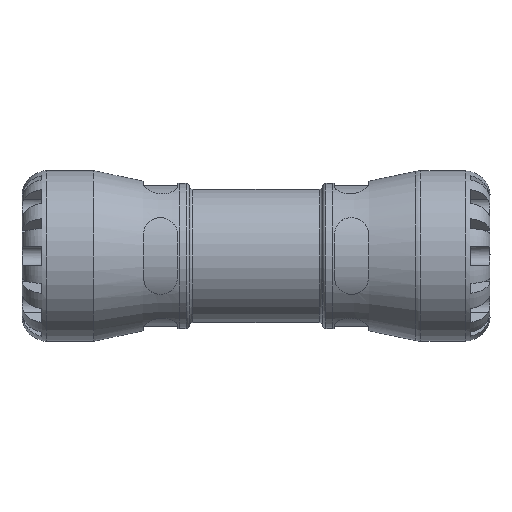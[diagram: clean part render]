
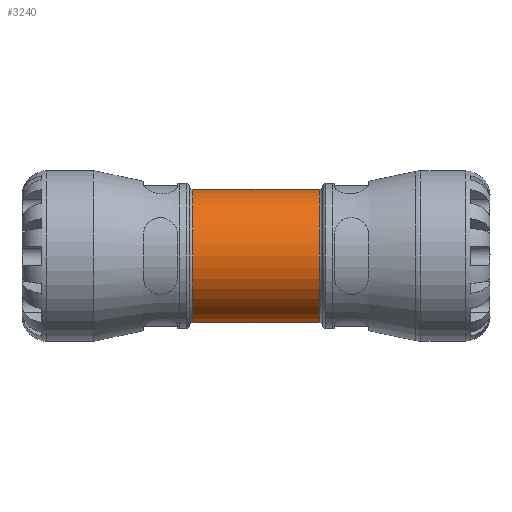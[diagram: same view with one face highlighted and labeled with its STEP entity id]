
A CAD part, front view. The second image highlights one B-rep face of the part: STEP entity #3240.
In plain terms, the highlighted cylindrical face has radius 27.3 mm (diameter 54.6 mm), a full revolution.
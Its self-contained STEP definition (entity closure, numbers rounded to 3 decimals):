
#467=FACE_BOUND('',#784,.T.);
#468=FACE_BOUND('',#785,.T.);
#510=CYLINDRICAL_SURFACE('',#3445,27.3);
#580=FACE_OUTER_BOUND('',#783,.T.);
#783=EDGE_LOOP('',(#2108));
#784=EDGE_LOOP('',(#2109));
#785=EDGE_LOOP('',(#2110));
#1026=B_SPLINE_CURVE_WITH_KNOTS('',3,(#4862,#4863,#4864,#4865,#4866,#4867,
#4868,#4869,#4870,#4871,#4872,#4873,#4874,#4875,#4876,#4877,#4878,#4879,
#4880,#4881,#4882),.UNSPECIFIED.,.T.,.F.,(4,1,1,1,1,1,1,1,1,1,1,1,1,1,1,
1,1,1,4),(-9.367,-9.032,-8.698,-8.028,
-7.359,-6.69,-6.021,-5.352,
-4.906,-4.46,-4.014,-3.568,
-3.122,-2.676,-2.007,-1.338,
-0.669,-0.335,0.),.UNSPECIFIED.);
#1158=CIRCLE('',#3446,27.3);
#1159=CIRCLE('',#3447,27.3);
#1331=VERTEX_POINT('',#4838);
#1334=VERTEX_POINT('',#4887);
#1335=VERTEX_POINT('',#4889);
#1638=EDGE_CURVE('',#1331,#1331,#1026,.T.);
#1640=EDGE_CURVE('',#1334,#1334,#1158,.T.);
#1641=EDGE_CURVE('',#1335,#1335,#1159,.T.);
#2108=ORIENTED_EDGE('',*,*,#1640,.F.);
#2109=ORIENTED_EDGE('',*,*,#1641,.F.);
#2110=ORIENTED_EDGE('',*,*,#1638,.F.);
#3240=ADVANCED_FACE('',(#580,#467,#468),#510,.T.);
#3445=AXIS2_PLACEMENT_3D('',#4886,#3826,#3827);
#3446=AXIS2_PLACEMENT_3D('',#4888,#3828,#3829);
#3447=AXIS2_PLACEMENT_3D('',#4890,#3830,#3831);
#3826=DIRECTION('center_axis',(1.,0.,0.));
#3827=DIRECTION('ref_axis',(0.,1.,0.));
#3828=DIRECTION('center_axis',(1.,0.,0.));
#3829=DIRECTION('ref_axis',(0.,1.,0.));
#3830=DIRECTION('center_axis',(-1.,0.,0.));
#3831=DIRECTION('ref_axis',(0.,1.,0.));
#4838=CARTESIAN_POINT('',(0.,21.855,-16.359));
#4862=CARTESIAN_POINT('Ctrl Pts',(0.,21.855,
-16.359));
#4863=CARTESIAN_POINT('Ctrl Pts',(-1.396,21.855,-16.359));
#4864=CARTESIAN_POINT('Ctrl Pts',(-4.187,22.078,-16.068));
#4865=CARTESIAN_POINT('Ctrl Pts',(-9.342,23.253,-14.393));
#4866=CARTESIAN_POINT('Ctrl Pts',(-14.58,25.399,-10.623));
#4867=CARTESIAN_POINT('Ctrl Pts',(-18.321,27.375,-3.917));
#4868=CARTESIAN_POINT('Ctrl Pts',(-18.325,27.377,3.919));
#4869=CARTESIAN_POINT('Ctrl Pts',(-14.579,25.399,10.619));
#4870=CARTESIAN_POINT('Ctrl Pts',(-8.997,23.111,14.645));
#4871=CARTESIAN_POINT('Ctrl Pts',(-2.847,21.811,16.422));
#4872=CARTESIAN_POINT('Ctrl Pts',(2.848,21.811,16.421));
#4873=CARTESIAN_POINT('Ctrl Pts',(8.116,22.921,14.903));
#4874=CARTESIAN_POINT('Ctrl Pts',(12.523,24.527,12.174));
#4875=CARTESIAN_POINT('Ctrl Pts',(15.889,26.092,8.418));
#4876=CARTESIAN_POINT('Ctrl Pts',(18.329,27.379,3.041));
#4877=CARTESIAN_POINT('Ctrl Pts',(18.321,27.375,-3.913));
#4878=CARTESIAN_POINT('Ctrl Pts',(14.58,25.399,-10.623));
#4879=CARTESIAN_POINT('Ctrl Pts',(9.342,23.253,-14.393));
#4880=CARTESIAN_POINT('Ctrl Pts',(4.187,22.078,-16.068));
#4881=CARTESIAN_POINT('Ctrl Pts',(1.396,21.855,-16.359));
#4882=CARTESIAN_POINT('Ctrl Pts',(0.,21.855,
-16.359));
#4886=CARTESIAN_POINT('Origin',(13.65,0.,0.));
#4887=CARTESIAN_POINT('',(25.922,-27.3,0.));
#4888=CARTESIAN_POINT('Origin',(25.922,0.,0.));
#4889=CARTESIAN_POINT('',(-25.922,-27.3,0.));
#4890=CARTESIAN_POINT('Origin',(-25.922,0.,0.));
